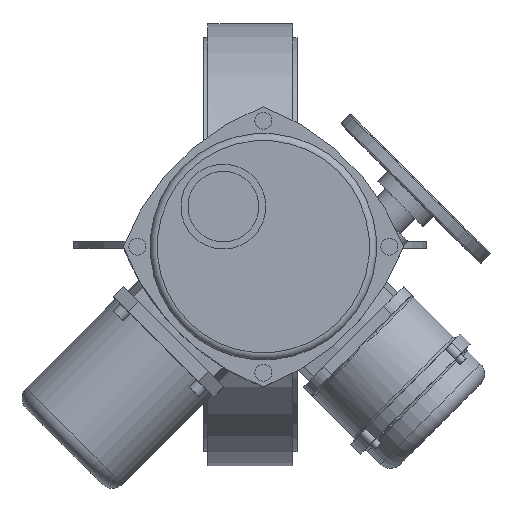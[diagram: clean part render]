
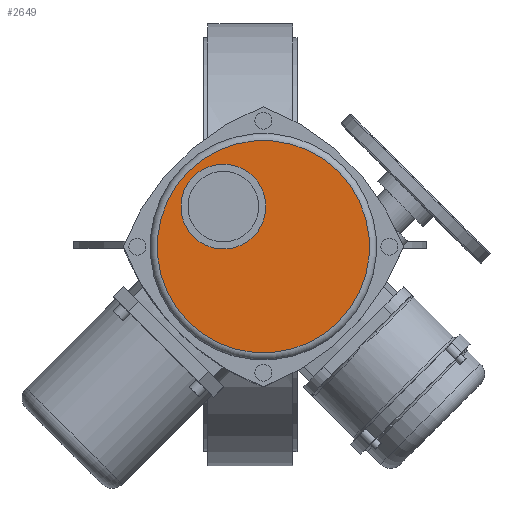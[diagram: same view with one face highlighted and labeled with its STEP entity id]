
A CAD part, top view. The second image highlights one B-rep face of the part: STEP entity #2649.
In plain terms, the highlighted planar face has unit normal (0, 0, 1).
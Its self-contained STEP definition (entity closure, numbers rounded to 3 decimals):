
#2649=ADVANCED_FACE('',(#5595,#5597),#5599,.T.);
#5595=FACE_BOUND('',#5596,.T.);
#5596=EDGE_LOOP('',(#7000));
#5597=FACE_BOUND('',#5598,.T.);
#5598=EDGE_LOOP('',(#7001));
#5599=PLANE('',#5600);
#5600=AXIS2_PLACEMENT_3D('',#5601,#5602,#5603);
#5601=CARTESIAN_POINT('',(9.192,-2.121,467.));
#5602=DIRECTION('',(0.,0.,1.));
#5603=DIRECTION('',(0.707,0.707,0.));
#7000=ORIENTED_EDGE('',*,*,#7626,.T.);
#7001=ORIENTED_EDGE('',*,*,#7669,.F.);
#7626=EDGE_CURVE('',#8686,#8686,#8687,.T.);
#7669=EDGE_CURVE('',#8754,#8754,#8755,.T.);
#8686=VERTEX_POINT('',#13452);
#8687=CIRCLE('',#13453,75.);
#8754=VERTEX_POINT('',#13645);
#8755=CIRCLE('',#13646,30.);
#13452=CARTESIAN_POINT('',(62.225,50.912,467.));
#13453=AXIS2_PLACEMENT_3D('',#13454,#13455,#13456);
#13454=CARTESIAN_POINT('',(9.192,-2.121,467.));
#13455=DIRECTION('',(0.,0.,1.));
#13456=DIRECTION('',(0.707,0.707,0.));
#13645=CARTESIAN_POINT('',(2.121,47.376,467.));
#13646=AXIS2_PLACEMENT_3D('',#13647,#13648,#13649);
#13647=CARTESIAN_POINT('',(-19.092,26.163,467.));
#13648=DIRECTION('',(0.,0.,1.));
#13649=DIRECTION('',(0.707,0.707,0.));
